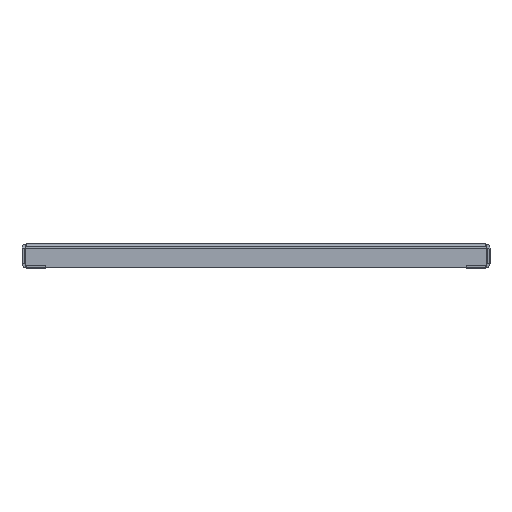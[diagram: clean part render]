
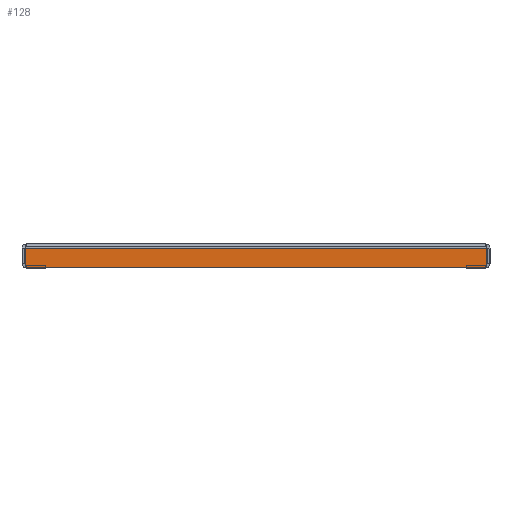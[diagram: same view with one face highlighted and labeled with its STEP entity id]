
A CAD part, front view. The second image highlights one B-rep face of the part: STEP entity #128.
In plain terms, the highlighted planar face has unit normal (0, -1, 0).
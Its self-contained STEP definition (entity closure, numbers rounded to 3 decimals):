
#128=ADVANCED_FACE('',(#1206),#1208,.F.);
#1206=FACE_BOUND('',#1207,.T.);
#1207=EDGE_LOOP('',(#1817,#1818,#1819,#1820));
#1208=PLANE('',#1209);
#1209=AXIS2_PLACEMENT_3D('',#1210,#1211,#1212);
#1210=CARTESIAN_POINT('',(0.,-966.5,0.));
#1211=DIRECTION('',(0.,1.,0.));
#1212=DIRECTION('',(0.,0.,1.));
#1817=ORIENTED_EDGE('',*,*,#2171,.F.);
#1818=ORIENTED_EDGE('',*,*,#2173,.F.);
#1819=ORIENTED_EDGE('',*,*,#2174,.F.);
#1820=ORIENTED_EDGE('',*,*,#2175,.F.);
#2171=EDGE_CURVE('',#2560,#2554,#2563,.T.);
#2173=EDGE_CURVE('',#2565,#2560,#2566,.T.);
#2174=EDGE_CURVE('',#2567,#2565,#2568,.T.);
#2175=EDGE_CURVE('',#2554,#2567,#2569,.T.);
#2554=VERTEX_POINT('',#4248);
#2560=VERTEX_POINT('',#4444);
#2563=LINE('',#4547,#4548);
#2565=VERTEX_POINT('',#4553);
#2566=LINE('',#4554,#4555);
#2567=VERTEX_POINT('',#4557);
#2568=LINE('',#4558,#4559);
#2569=LINE('',#4561,#4562);
#4248=CARTESIAN_POINT('',(235.823,-966.5,-4.4));
#4444=CARTESIAN_POINT('',(-235.823,-966.5,-4.4));
#4547=CARTESIAN_POINT('',(-235.823,-966.5,-4.4));
#4548=VECTOR('',#4549,1.);
#4549=DIRECTION('',(1.,0.,0.));
#4553=CARTESIAN_POINT('',(-235.823,-966.5,-24.5));
#4554=CARTESIAN_POINT('',(-235.823,-966.5,-24.5));
#4555=VECTOR('',#4556,1.);
#4556=DIRECTION('',(0.,0.,1.));
#4557=CARTESIAN_POINT('',(235.823,-966.5,-24.5));
#4558=CARTESIAN_POINT('',(235.823,-966.5,-24.5));
#4559=VECTOR('',#4560,1.);
#4560=DIRECTION('',(-1.,0.,0.));
#4561=CARTESIAN_POINT('',(235.823,-966.5,-4.4));
#4562=VECTOR('',#4563,1.);
#4563=DIRECTION('',(0.,0.,-1.));
